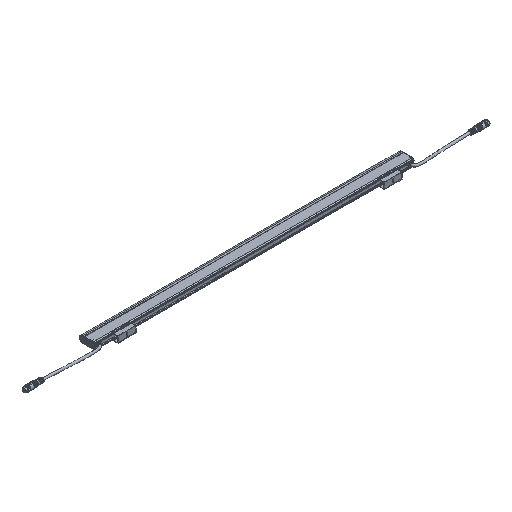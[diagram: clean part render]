
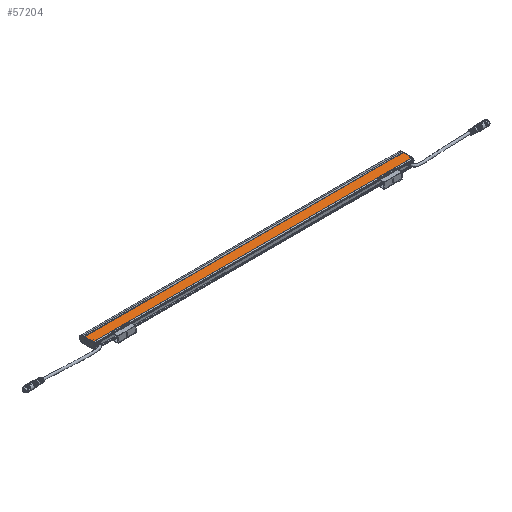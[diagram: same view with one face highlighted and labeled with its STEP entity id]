
A CAD part, isometric view. The second image highlights one B-rep face of the part: STEP entity #57204.
In plain terms, the highlighted planar face has unit normal (0, 0, 1).
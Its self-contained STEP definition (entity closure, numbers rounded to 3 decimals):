
#2976 = VERTEX_POINT ( 'NONE', #21278 ) ;
#4147 = LINE ( 'NONE', #35422, #21945 ) ;
#4176 = LINE ( 'NONE', #52969, #9217 ) ;
#5752 = LINE ( 'NONE', #24973, #44952 ) ;
#5795 = EDGE_CURVE ( 'NONE', #46832, #19415, #28041, .T. ) ;
#7395 = DIRECTION ( 'NONE',  ( 0., -1., 0. ) ) ;
#8036 = DIRECTION ( 'NONE',  ( -1., 0., 0. ) ) ;
#8745 = DIRECTION ( 'NONE',  ( -1., 0., 0. ) ) ;
#9217 = VECTOR ( 'NONE', #8036, 1000. ) ;
#9540 = EDGE_CURVE ( 'NONE', #42330, #2976, #5752, .T. ) ;
#9765 = LINE ( 'NONE', #11208, #11401 ) ;
#10151 = CARTESIAN_POINT ( 'NONE',  ( 448., 50.842, 9.15 ) ) ;
#10233 = CARTESIAN_POINT ( 'NONE',  ( 449.5, 50.842, 9.15 ) ) ;
#10769 = VECTOR ( 'NONE', #29836, 1000. ) ;
#10855 = LINE ( 'NONE', #51142, #10769 ) ;
#11208 = CARTESIAN_POINT ( 'NONE',  ( -449.5, 0., 9.15 ) ) ;
#11401 = VECTOR ( 'NONE', #7395, 1000. ) ;
#12332 = ORIENTED_EDGE ( 'NONE', *, *, #14064, .T. ) ;
#12559 = CARTESIAN_POINT ( 'NONE',  ( -449.5, 50.842, 9.15 ) ) ;
#12761 = EDGE_CURVE ( 'NONE', #46832, #32041, #34710, .T. ) ;
#13817 = VECTOR ( 'NONE', #38184, 1000. ) ;
#14064 = EDGE_CURVE ( 'NONE', #19415, #39696, #19547, .T. ) ;
#15207 = ORIENTED_EDGE ( 'NONE', *, *, #33578, .T. ) ;
#18685 = VECTOR ( 'NONE', #20426, 1000. ) ;
#19015 = EDGE_CURVE ( 'NONE', #57006, #42330, #10855, .T. ) ;
#19415 = VERTEX_POINT ( 'NONE', #23779 ) ;
#19547 = LINE ( 'NONE', #42004, #13817 ) ;
#19898 = ORIENTED_EDGE ( 'NONE', *, *, #27032, .T. ) ;
#20426 = DIRECTION ( 'NONE',  ( 0., 1., 0. ) ) ;
#21020 = ORIENTED_EDGE ( 'NONE', *, *, #19015, .F. ) ;
#21278 = CARTESIAN_POINT ( 'NONE',  ( 448., 45.5, 9.15 ) ) ;
#21618 = DIRECTION ( 'NONE',  ( 0., 1., 0. ) ) ;
#21762 = EDGE_LOOP ( 'NONE', ( #21020, #44869, #15207, #51685, #45304, #12332, #19898, #56083 ) ) ;
#21945 = VECTOR ( 'NONE', #22584, 1000. ) ;
#22584 = DIRECTION ( 'NONE',  ( 0., -1., 0. ) ) ;
#23195 = VERTEX_POINT ( 'NONE', #12559 ) ;
#23581 = DIRECTION ( 'NONE',  ( 1., 0., 0. ) ) ;
#23610 = EDGE_CURVE ( 'NONE', #57006, #23195, #4176, .T. ) ;
#23779 = CARTESIAN_POINT ( 'NONE',  ( 449.5, 50.842, 9.15 ) ) ;
#24973 = CARTESIAN_POINT ( 'NONE',  ( -448., 45.5, 9.15 ) ) ;
#25742 = AXIS2_PLACEMENT_3D ( 'NONE', #51993, #26002, #21618 ) ;
#26002 = DIRECTION ( 'NONE',  ( 0., 0., -1. ) ) ;
#27032 = EDGE_CURVE ( 'NONE', #39696, #2976, #4147, .T. ) ;
#28041 = LINE ( 'NONE', #10233, #18685 ) ;
#29544 = PLANE ( 'NONE',  #25742 ) ;
#29836 = DIRECTION ( 'NONE',  ( 0., -1., 0. ) ) ;
#32041 = VERTEX_POINT ( 'NONE', #51288 ) ;
#33578 = EDGE_CURVE ( 'NONE', #23195, #32041, #9765, .T. ) ;
#34710 = LINE ( 'NONE', #53106, #49937 ) ;
#35422 = CARTESIAN_POINT ( 'NONE',  ( 448., 45.5, 9.15 ) ) ;
#38184 = DIRECTION ( 'NONE',  ( -1., 0., 0. ) ) ;
#39696 = VERTEX_POINT ( 'NONE', #10151 ) ;
#42004 = CARTESIAN_POINT ( 'NONE',  ( 448., 50.842, 9.15 ) ) ;
#42330 = VERTEX_POINT ( 'NONE', #51235 ) ;
#42948 = FACE_OUTER_BOUND ( 'NONE', #21762, .T. ) ;
#44869 = ORIENTED_EDGE ( 'NONE', *, *, #23610, .T. ) ;
#44952 = VECTOR ( 'NONE', #23581, 1000. ) ;
#45304 = ORIENTED_EDGE ( 'NONE', *, *, #5795, .T. ) ;
#46832 = VERTEX_POINT ( 'NONE', #56187 ) ;
#49937 = VECTOR ( 'NONE', #8745, 1000. ) ;
#51142 = CARTESIAN_POINT ( 'NONE',  ( -448., 45.5, 9.15 ) ) ;
#51235 = CARTESIAN_POINT ( 'NONE',  ( -448., 45.5, 9.15 ) ) ;
#51288 = CARTESIAN_POINT ( 'NONE',  ( -449.5, 20.786, 9.15 ) ) ;
#51685 = ORIENTED_EDGE ( 'NONE', *, *, #12761, .F. ) ;
#51993 = CARTESIAN_POINT ( 'NONE',  ( 448., 0., 9.15 ) ) ;
#52969 = CARTESIAN_POINT ( 'NONE',  ( 448., 50.842, 9.15 ) ) ;
#53106 = CARTESIAN_POINT ( 'NONE',  ( 448., 20.786, 9.15 ) ) ;
#53492 = CARTESIAN_POINT ( 'NONE',  ( -448., 50.842, 9.15 ) ) ;
#56083 = ORIENTED_EDGE ( 'NONE', *, *, #9540, .F. ) ;
#56187 = CARTESIAN_POINT ( 'NONE',  ( 449.5, 20.786, 9.15 ) ) ;
#57006 = VERTEX_POINT ( 'NONE', #53492 ) ;
#57204 = ADVANCED_FACE ( 'NONE', ( #42948 ), #29544, .F. ) ;
